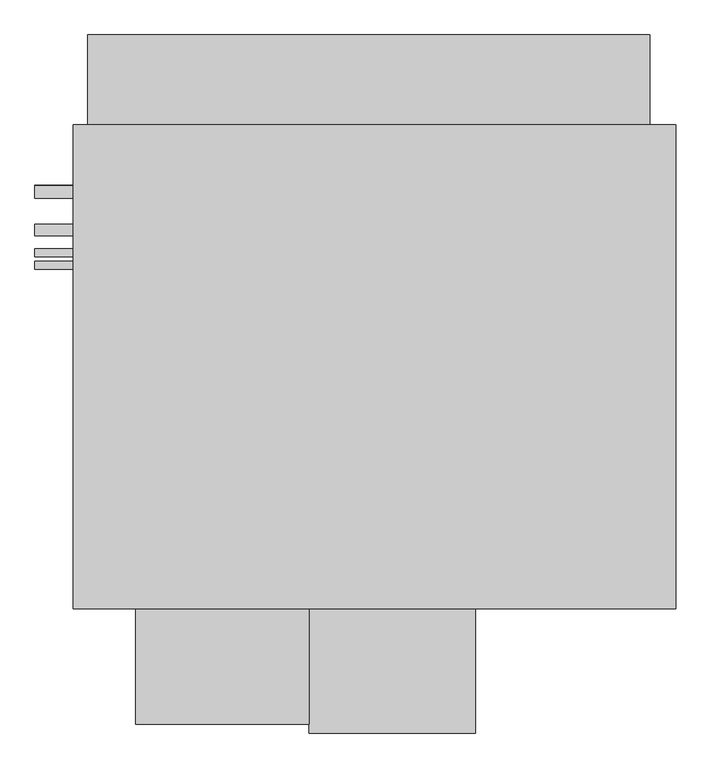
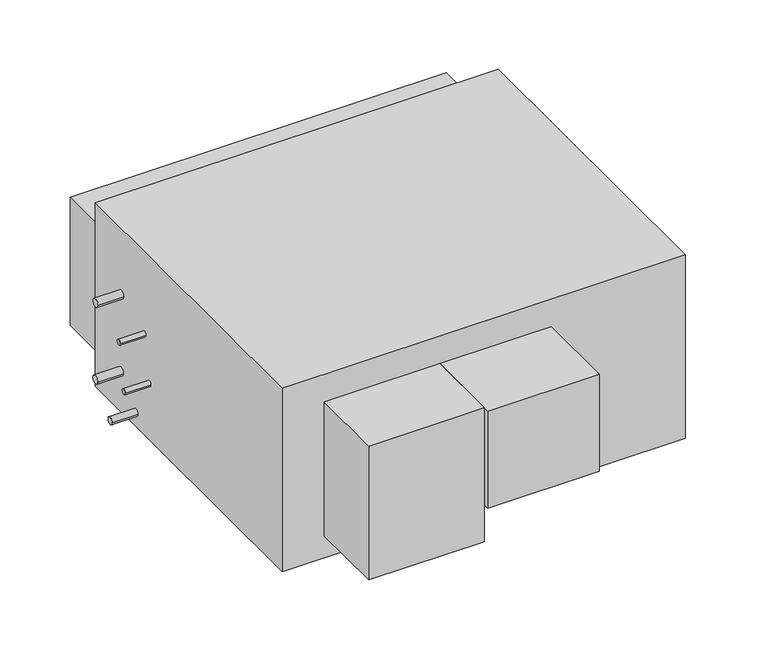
"""IFC4 building model written with IfcOpenShell, lengths in millimetres: proxy geometry, Horizontal_Direct_Drive_Blower_Coil_Unit_-_42DHA_-_CARRIER_-_4-Pipe_LH_2022 : Size 16 - 460v/60Hz/3Ph - 6/2 Coil."""

from ifc_helpers import new_model, si_unit, point, frame, frame_2d, origin, place, context, project, spatial, polyline, circle_curve, trimmed, segment, composite_curve, outline, extrude, source, transform, mapped, element, save


def mechanical_equipment_deafffc9(model_context):
    return source(origin(), model_context, "Body", "SweptSolid", [
        extrude(outline(composite_curve([segment(trimmed(circle_curve(frame_2d((358.775, -205.7657415)), 12.7), [point((371.475, -205.7657415))], [point((346.075, -205.7657415))], False, "CARTESIAN"), True, "CONTINUOUS"), segment(trimmed(circle_curve(frame_2d((358.775, -205.7657415)), 12.7), [point((346.075, -205.7657415))], [point((371.475, -205.7657415))], False, "CARTESIAN"), True, "CONTINUOUS")], self_intersect=False)), frame((-1143.0, 0.0, 0.0), z_axis=(1.0, 0.0, 0.0), x_axis=(0.0, 1.0, 0.0)), (0.0, 0.0, 1.0), 76.2),
        extrude(outline(composite_curve([segment(trimmed(circle_curve(frame_2d((359.642288, -447.0657415)), 12.7), [point((372.342288, -447.0657415))], [point((346.942288, -447.0657415))], False, "CARTESIAN"), True, "CONTINUOUS"), segment(trimmed(circle_curve(frame_2d((359.642288, -447.0657415)), 12.7), [point((346.942288, -447.0657415))], [point((372.342288, -447.0657415))], False, "CARTESIAN"), True, "CONTINUOUS")], self_intersect=False)), frame((-1143.0, 0.0, 0.0), z_axis=(1.0, 0.0, 0.0), x_axis=(0.0, 1.0, 0.0)), (0.0, 0.0, 1.0), 76.2),
        extrude(outline(composite_curve([segment(trimmed(circle_curve(frame_2d((283.442288, -529.6157415)), 11.1125), [point((294.554788, -529.6157415))], [point((272.329788, -529.6157415))], False, "CARTESIAN"), True, "CONTINUOUS"), segment(trimmed(circle_curve(frame_2d((283.442288, -529.6157415)), 11.1125), [point((272.329788, -529.6157415))], [point((294.554788, -529.6157415))], False, "CARTESIAN"), True, "CONTINUOUS")], self_intersect=False)), frame((-1143.0, 0.0, 0.0), z_axis=(1.0, 0.0, 0.0), x_axis=(0.0, 1.0, 0.0)), (0.0, 0.0, 1.0), 76.2),
        extrude(outline(composite_curve([segment(trimmed(circle_curve(frame_2d((238.992288, -256.5657415)), 7.9375), [point((246.929788, -256.5657415))], [point((231.054788, -256.5657415))], False, "CARTESIAN"), True, "CONTINUOUS"), segment(trimmed(circle_curve(frame_2d((238.992288, -256.5657415)), 7.9375), [point((231.054788, -256.5657415))], [point((246.929788, -256.5657415))], False, "CARTESIAN"), True, "CONTINUOUS")], self_intersect=False)), frame((-1143.0, 0.0, 0.0), z_axis=(1.0, 0.0, 0.0), x_axis=(0.0, 1.0, 0.0)), (0.0, 0.0, 1.0), 76.2),
        extrude(outline(composite_curve([segment(trimmed(circle_curve(frame_2d((213.592288, -396.5449971)), 7.9375), [point((221.529788, -396.5449971))], [point((205.654788, -396.5449971))], False, "CARTESIAN"), True, "CONTINUOUS"), segment(trimmed(circle_curve(frame_2d((213.592288, -396.5449971)), 7.9375), [point((205.654788, -396.5449971))], [point((221.529788, -396.5449971))], False, "CARTESIAN"), True, "CONTINUOUS")], self_intersect=False)), frame((-1143.0, 0.0, 0.0), z_axis=(1.0, 0.0, 0.0), x_axis=(0.0, 1.0, 0.0)), (0.0, 0.0, 1.0), 76.2),
        extrude(outline(polyline([(127.0, 492.125), (127.0, -466.725), (-1066.8, -466.725), (-1066.8, 492.125), (127.0, 492.125)])), frame((0.0, 0.0, -574.0657415), z_axis=(0.0, 0.0, 1.0), x_axis=(1.0, 0.0, 0.0)), (0.0, 0.0, 1.0), 574.0657415),
        extrude(outline(polyline([(-600.075, -695.325), (-942.975, -695.325), (-942.975, -466.725), (-600.075, -466.725), (-600.075, -695.325)])), frame((0.0, 0.0, -504.2157415), z_axis=(0.0, 0.0, 1.0), x_axis=(1.0, 0.0, 0.0)), (0.0, 0.0, 1.0), 419.1),
        extrude(outline(polyline([(-1038.225, 669.925), (76.2, 669.925), (76.2, 492.125), (-1038.225, 492.125), (-1038.225, 669.925)])), frame((0.0, 0.0, -501.0407415), z_axis=(0.0, 0.0, 1.0), x_axis=(1.0, 0.0, 0.0)), (0.0, 0.0, 1.0), 400.05),
        extrude(outline(polyline([(-269.875, -712.7875), (-600.075, -712.7875), (-600.075, -466.725), (-269.875, -466.725), (-269.875, -712.7875)])), frame((0.0, 0.0, -389.9157415), z_axis=(0.0, 0.0, 1.0), x_axis=(1.0, 0.0, 0.0)), (0.0, 0.0, 1.0), 304.8),
    ])


if __name__ == "__main__":
    model = new_model("IFC4")
    model_context = context("Model", 3, world=origin())
    ifc_project = project(units=[si_unit("LENGTHUNIT", "METRE", prefix="MILLI")], contexts=[model_context])
    site = spatial("IfcSite", under=ifc_project)
    building = spatial("IfcBuilding", under=site)
    placement = place(None, origin())
    mechanical_equipment_shape = mechanical_equipment_deafffc9(model_context)
    element("IfcBuildingElementProxy", 1, Name="Horizontal_Direct_Drive_Blower_Coil_Unit_-_42DHA_-_CARRIER_-_4-Pipe_LH_2022 : Size 16 - 460v/60Hz/3Ph - 6/2 Coil", ObjectType="Horizontal_Direct_Drive_Blower_Coil_Unit_-_42DHA_-_CARRIER_-_4-Pipe_LH_2022 : Size 16 - 460v/60Hz/3Ph - 6/2 Coil", at=placement, inside=building, context=model_context, shape_type="MappedRepresentation", body=[
        mapped(mechanical_equipment_shape, transform((0.0, 0.0, 0.0), x_axis=(1.0, 0.0, 0.0), y_axis=(0.0, 1.0, 0.0), z_axis=(0.0, 0.0, 1.0))),
    ])
    save(model, "model.ifc")
